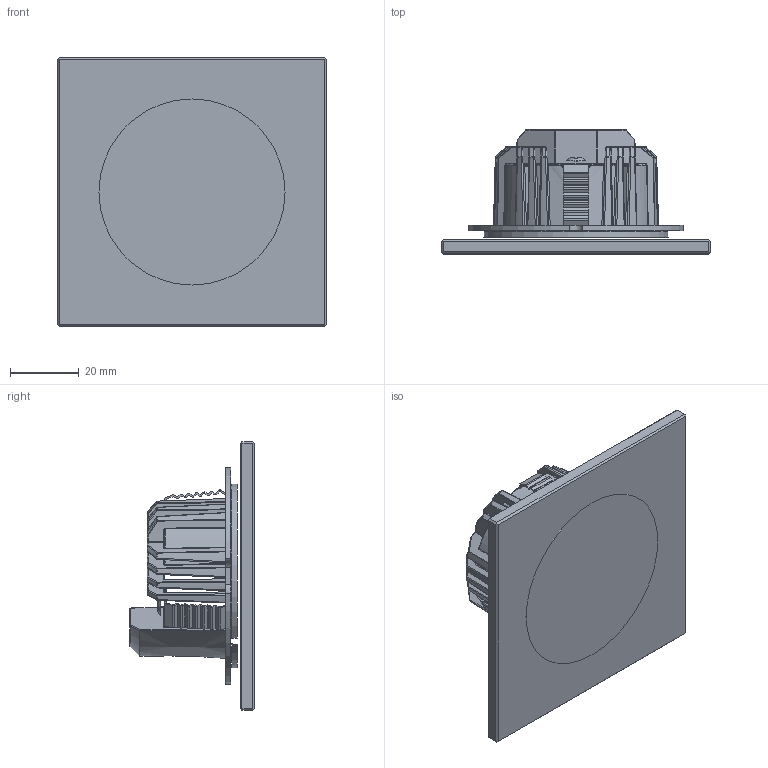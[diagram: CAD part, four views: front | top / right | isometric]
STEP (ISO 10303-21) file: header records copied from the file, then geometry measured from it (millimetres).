
FILE_DESCRIPTION((''),'2;1');
FILE_NAME('RAPPR_DI_DEFAULT_SW0001','2025-07-24T09:54:23',('Piccioli'),(''),'CREO PARAMETRIC BY PTC INC, 2025010','CREO PARAMETRIC BY PTC INC, 2025010','');
FILE_SCHEMA(('CONFIG_CONTROL_DESIGN'));
Length unit declared in the file: millimetre
Products named in the file (1): RAPPR_DI_DEFAULT_SW0001
Bounding box: 78 x 36.1 x 78 mm (x, y, z)
Surface area: 34625.6 mm2 (no closed solid volume)
Topology: 0 solids, 32 shells, 352 faces, 1450 edges, 1068 vertices
Faces by surface type: plane 124, cylinder 81, bspline 66, cone 41, torus 30, sphere 10
Entity records: 18410 total; most frequent: CARTESIAN_POINT 7250, DIRECTION 2329, ORIENTED_EDGE 2010, EDGE_CURVE 1450, VERTEX_POINT 1068, AXIS2_PLACEMENT_3D 873, CIRCLE 587, VECTOR 583
